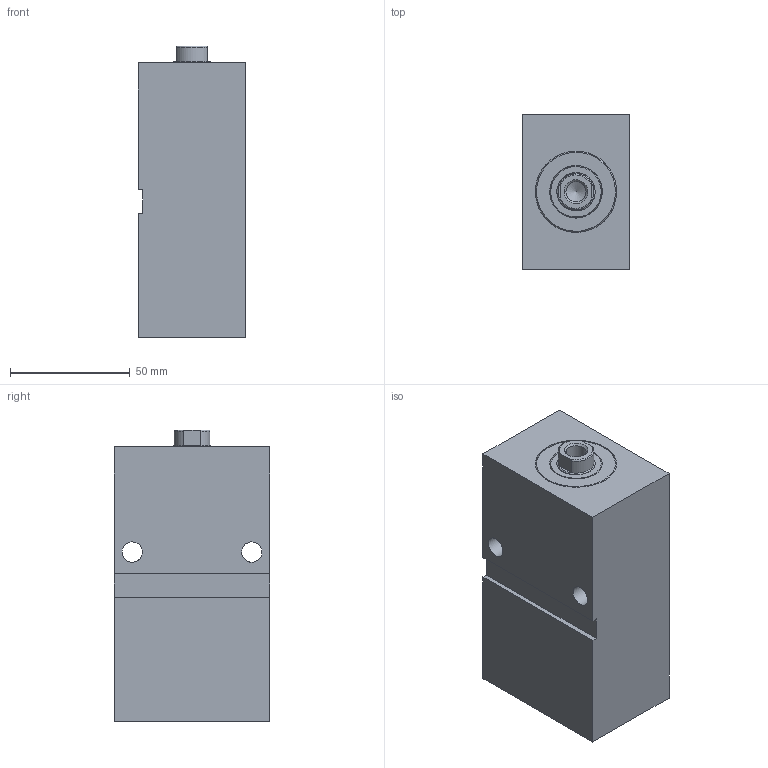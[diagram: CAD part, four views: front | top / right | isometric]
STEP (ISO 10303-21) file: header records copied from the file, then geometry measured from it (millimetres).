
FILE_DESCRIPTION( ( 'STEP AP203' ), '1' );
FILE_NAME( 'C:/Users/SAYKO.ltd/Desktop/SBZ100/03/SBZ100-25/SBZ100.25__FORM_03_STROKE_50__H2_58_POS_0_.stp', ' ', ( ' ' ), ( ' ' ), 'PSStep 15.0.47', 'PARTsolutions', ' ' );
FILE_SCHEMA( ( 'CONFIG_CONTROL_DESIGN' ) );
Length unit declared in the file: millimetre
Products named in the file (5): SBZ100.25  FORM=03 STROKE=50 (H2=58 POS=0); HI_SBZ10025  FORM=03 STROKE=50 H2=58 -C; HI_SBZ10025  FORM=03 STROKE=50-R; HI_SBZ100.25-C; HI_SBZ100.25-S
Assembly tree (4 placements, depth 2):
  SBZ100.25  FORM=03 STROKE=50 (H2=58 POS=0)
    HI_SBZ10025  FORM=03 STROKE=50 H2=58 -C
    HI_SBZ10025  FORM=03 STROKE=50-R
    HI_SBZ100.25-C
    HI_SBZ100.25-S
Bounding box: 45 x 65 x 122 mm (x, y, z)
Volume: 312053.7 mm3; surface area: 58003.2 mm2
Topology: 4 solids, 4 shells, 60 faces, 124 edges, 81 vertices
Faces by surface type: plane 31, cylinder 22, cone 4, torus 3
Full cylindrical faces by diameter (mm): 3 x2, 8.376 x1, 8.5 x2, 11.445 x2, 16 x6, 22 x1, 24 x2, 25 x2, 34 x2
Entity records: 3143 total; most frequent: CARTESIAN_POINT 1971, ORIENTED_EDGE 176, DIRECTION 154, EDGE_LOOP 108, EDGE_CURVE 88, FACE_OUTER_BOUND 81, VERTEX_POINT 73, AXIS2_PLACEMENT_3D 65
